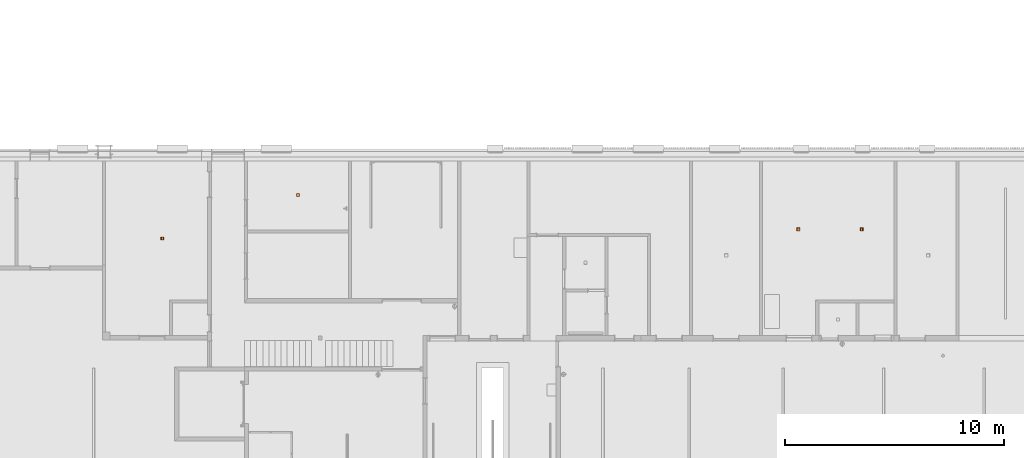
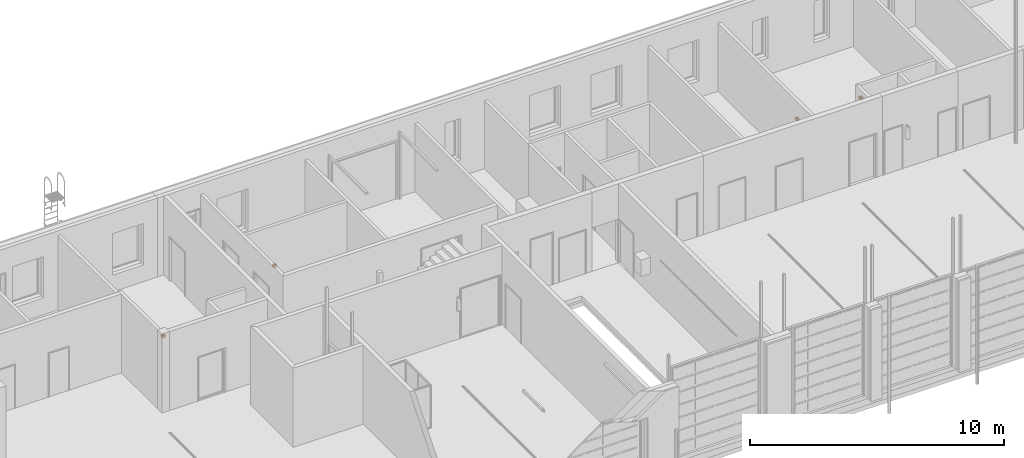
# One storey, part 95 of 112: 4 proxies.
"""IFC2X3 building model written with IfcOpenShell, lengths in millimetres."""

from ifc_helpers import new_model, entity, si_unit, converted_unit, derived_unit, money_unit, direction, frame, origin_with_axes, place, context, subcontext, project, spatial, faceted_brep, source, transform, mapped, type_object, element, save


model = new_model("IFC2X3")

# Units and contexts
model_context = context("Model", 3, precision=0.01, world=origin_with_axes(), true_north=direction((0.0, 1.0)))
body_context = subcontext(model_context, "Body", "Model", "MODEL_VIEW")
ifc_project = project(units=[si_unit("LENGTHUNIT", "METRE", prefix="MILLI"), si_unit("AREAUNIT", "SQUARE_METRE"), si_unit("VOLUMEUNIT", "CUBIC_METRE"), converted_unit("PLANEANGLEUNIT", "DEGREE", entity("IfcPlaneAngleMeasure", 0.0174532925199), si_unit("PLANEANGLEUNIT", "RADIAN"), dimensions=[0, 0, 0, 0, 0, 0, 0]), si_unit("SOLIDANGLEUNIT", "STERADIAN"), money_unit("EUR"), converted_unit("TIMEUNIT", "Year", entity("IfcTimeMeasure", 31556926.0), si_unit("TIMEUNIT", "SECOND"), dimensions=[0, 0, 1, 0, 0, 0, 0]), si_unit("MASSUNIT", "GRAM", prefix="KILO"), si_unit("THERMODYNAMICTEMPERATUREUNIT", "DEGREE_CELSIUS"), si_unit("LUMINOUSINTENSITYUNIT", "LUMEN"), si_unit("ENERGYUNIT", "JOULE", prefix="MEGA"), derived_unit("THERMALCONDUCTANCEUNIT", [(si_unit("POWERUNIT", "WATT"), 1), (si_unit("LENGTHUNIT", "METRE"), -1), (si_unit("THERMODYNAMICTEMPERATUREUNIT", "KELVIN"), -1)]), derived_unit("SPECIFICHEATCAPACITYUNIT", [(si_unit("ENERGYUNIT", "JOULE"), 1), (si_unit("MASSUNIT", "GRAM", prefix="KILO"), -1), (si_unit("THERMODYNAMICTEMPERATUREUNIT", "KELVIN"), -1)]), derived_unit("MASSDENSITYUNIT", [(si_unit("MASSUNIT", "GRAM", prefix="KILO"), 1), (si_unit("VOLUMEUNIT", "CUBIC_METRE"), -1)])], contexts=[model_context])

# Site, building, storey
site_placement = place(None, origin_with_axes())
site = spatial("IfcSite", under=ifc_project, at=site_placement, Name="Politse- ja Piirivalveameti ning Päästeameti ühishoone", CompositionType="ELEMENT")
building_placement = place(site_placement, origin_with_axes())
building = spatial("IfcBuilding", under=site, at=building_placement, Name="Politse- ja Piirivalveameti ning Päästeameti ühishoone", CompositionType="ELEMENT")
storey_placement = place(building_placement, origin_with_axes())
storey = spatial("IfcBuildingStorey", under=building, at=storey_placement, Name="Esimene korrus", CompositionType="ELEMENT", Elevation=0.0)

# Proxies
building_element_proxy_type = type_object("IfcBuildingElementProxyType", Name="Grid 23", PredefinedType="NOTDEFINED")
shared_shape = source(origin_with_axes(), body_context, "Body", "Brep", [
    faceted_brep([(0.0, 0.0, 0.0), (5.0, 5.0, 0.0), (5.0, 5.0, 100.0), (0.0, 0.0, 100.0), (0.0, 150.0, 0.0), (5.0, 145.0, 0.0), (5.0, 119.5, 0.0), (5.0, 117.5, 0.0), (5.0, 90.5, 0.0), (5.0, 88.5, 0.0), (5.0, 61.5, 0.0), (5.0, 59.5, 0.0), (5.0, 32.5, 0.0), (5.0, 30.5, 0.0), (5.0, 30.5, 100.0), (5.0, 32.5, 100.0), (5.0, 59.5, 100.0), (5.0, 61.5, 100.0), (5.0, 88.5, 100.0), (5.0, 90.5, 100.0), (5.0, 117.5, 100.0), (5.0, 119.5, 100.0), (5.0, 145.0, 100.0), (0.0, 150.0, 100.0)], [[[0, 1, 2, 3]], [[0, 4, 5, 6, 7, 8, 9, 10, 11, 12, 13, 1]], [[1, 13, 14, 2]], [[3, 2, 14, 15, 16, 17, 18, 19, 20, 21, 22, 23]], [[4, 0, 3, 23]], [[5, 4, 23, 22]], [[6, 5, 22, 21]], [[7, 6, 21, 20]], [[8, 7, 20, 19]], [[9, 8, 19, 18]], [[10, 9, 18, 17]], [[11, 10, 17, 16]], [[12, 11, 16, 15]], [[13, 12, 15, 14]]]),
    faceted_brep([(150.0, 150.0, 0.0), (145.0, 145.0, 0.0), (145.0, 145.0, 100.0), (150.0, 150.0, 100.0), (150.0, 0.0, 0.0), (145.0, 5.0, 0.0), (145.0, 30.5, 0.0), (145.0, 32.5, 0.0), (145.0, 59.5, 0.0), (145.0, 61.5, 0.0), (145.0, 88.5, 0.0), (145.0, 90.5, 0.0), (145.0, 117.5, 0.0), (145.0, 119.5, 0.0), (145.0, 119.5, 100.0), (145.0, 117.5, 100.0), (145.0, 90.5, 100.0), (145.0, 88.5, 100.0), (145.0, 61.5, 100.0), (145.0, 59.5, 100.0), (145.0, 32.5, 100.0), (145.0, 30.5, 100.0), (145.0, 5.0, 100.0), (150.0, 0.0, 100.0)], [[[0, 1, 2, 3]], [[0, 4, 5, 6, 7, 8, 9, 10, 11, 12, 13, 1]], [[1, 13, 14, 2]], [[3, 2, 14, 15, 16, 17, 18, 19, 20, 21, 22, 23]], [[4, 0, 3, 23]], [[5, 4, 23, 22]], [[6, 5, 22, 21]], [[7, 6, 21, 20]], [[8, 7, 20, 19]], [[9, 8, 19, 18]], [[10, 9, 18, 17]], [[11, 10, 17, 16]], [[12, 11, 16, 15]], [[13, 12, 15, 14]]]),
    faceted_brep([(150.0, 0.0, 0.0), (145.0, 5.0, 0.0), (145.0, 5.0, 100.0), (150.0, 0.0, 100.0), (0.0, 0.0, 0.0), (5.0, 5.0, 0.0), (30.5, 5.0, 0.0), (32.5, 5.0, 0.0), (59.5, 5.0, 0.0), (61.5, 5.0, 0.0), (88.5, 5.0, 0.0), (90.5, 5.0, 0.0), (117.5, 5.0, 0.0), (119.5, 5.0, 0.0), (119.5, 5.0, 100.0), (117.5, 5.0, 100.0), (90.5, 5.0, 100.0), (88.5, 5.0, 100.0), (61.5, 5.0, 100.0), (59.5, 5.0, 100.0), (32.5, 5.0, 100.0), (30.5, 5.0, 100.0), (5.0, 5.0, 100.0), (0.0, 0.0, 100.0)], [[[0, 1, 2, 3]], [[0, 4, 5, 6, 7, 8, 9, 10, 11, 12, 13, 1]], [[1, 13, 14, 2]], [[3, 2, 14, 15, 16, 17, 18, 19, 20, 21, 22, 23]], [[4, 0, 3, 23]], [[5, 4, 23, 22]], [[6, 5, 22, 21]], [[7, 6, 21, 20]], [[8, 7, 20, 19]], [[9, 8, 19, 18]], [[10, 9, 18, 17]], [[11, 10, 17, 16]], [[12, 11, 16, 15]], [[13, 12, 15, 14]]]),
    faceted_brep([(0.0, 150.0, 0.0), (5.0, 145.0, 0.0), (5.0, 145.0, 100.0), (0.0, 150.0, 100.0), (150.0, 150.0, 0.0), (145.0, 145.0, 0.0), (119.5, 145.0, 0.0), (117.5, 145.0, 0.0), (90.5, 145.0, 0.0), (88.5, 145.0, 0.0), (61.5, 145.0, 0.0), (59.5, 145.0, 0.0), (32.5, 145.0, 0.0), (30.5, 145.0, 0.0), (30.5, 145.0, 100.0), (32.5, 145.0, 100.0), (59.5, 145.0, 100.0), (61.5, 145.0, 100.0), (88.5, 145.0, 100.0), (90.5, 145.0, 100.0), (117.5, 145.0, 100.0), (119.5, 145.0, 100.0), (145.0, 145.0, 100.0), (150.0, 150.0, 100.0)], [[[0, 1, 2, 3]], [[0, 4, 5, 6, 7, 8, 9, 10, 11, 12, 13, 1]], [[1, 13, 14, 2]], [[3, 2, 14, 15, 16, 17, 18, 19, 20, 21, 22, 23]], [[4, 0, 3, 23]], [[5, 4, 23, 22]], [[6, 5, 22, 21]], [[7, 6, 21, 20]], [[8, 7, 20, 19]], [[9, 8, 19, 18]], [[10, 9, 18, 17]], [[11, 10, 17, 16]], [[12, 11, 16, 15]], [[13, 12, 15, 14]]]),
    faceted_brep([(30.5, 5.0, 0.0), (32.5, 5.0, 0.0), (32.5, 5.0, 100.0), (30.5, 5.0, 100.0), (30.5, 30.5, 0.0), (30.5, 32.5, 0.0), (30.5, 59.5, 0.0), (30.5, 61.5, 0.0), (30.5, 88.5, 0.0), (30.5, 90.5, 0.0), (30.5, 117.5, 0.0), (30.5, 119.5, 0.0), (30.5, 145.0, 0.0), (32.5, 145.0, 0.0), (32.5, 119.5, 0.0), (32.5, 117.5, 0.0), (32.5, 90.5, 0.0), (32.5, 88.5, 0.0), (32.5, 61.5, 0.0), (32.5, 59.5, 0.0), (32.5, 32.5, 0.0), (32.5, 30.5, 0.0), (32.5, 30.5, 100.0), (32.5, 32.5, 100.0), (32.5, 59.5, 100.0), (32.5, 61.5, 100.0), (32.5, 88.5, 100.0), (32.5, 90.5, 100.0), (32.5, 117.5, 100.0), (32.5, 119.5, 100.0), (32.5, 145.0, 100.0), (30.5, 145.0, 100.0), (30.5, 119.5, 100.0), (30.5, 117.5, 100.0), (30.5, 90.5, 100.0), (30.5, 88.5, 100.0), (30.5, 61.5, 100.0), (30.5, 59.5, 100.0), (30.5, 32.5, 100.0), (30.5, 30.5, 100.0)], [[[0, 1, 2, 3]], [[0, 4, 5, 6, 7, 8, 9, 10, 11, 12, 13, 14, 15, 16, 17, 18, 19, 20, 21, 1]], [[1, 21, 22, 2]], [[3, 2, 22, 23, 24, 25, 26, 27, 28, 29, 30, 31, 32, 33, 34, 35, 36, 37, 38, 39]], [[4, 0, 3, 39]], [[5, 4, 39, 38]], [[6, 5, 38, 37]], [[7, 6, 37, 36]], [[8, 7, 36, 35]], [[9, 8, 35, 34]], [[10, 9, 34, 33]], [[11, 10, 33, 32]], [[12, 11, 32, 31]], [[13, 12, 31, 30]], [[14, 13, 30, 29]], [[15, 14, 29, 28]], [[16, 15, 28, 27]], [[17, 16, 27, 26]], [[18, 17, 26, 25]], [[19, 18, 25, 24]], [[20, 19, 24, 23]], [[21, 20, 23, 22]]]),
    faceted_brep([(59.5, 5.0, 0.0), (61.5, 5.0, 0.0), (61.5, 5.0, 100.0), (59.5, 5.0, 100.0), (59.5, 30.5, 0.0), (59.5, 32.5, 0.0), (59.5, 59.5, 0.0), (59.5, 61.5, 0.0), (59.5, 88.5, 0.0), (59.5, 90.5, 0.0), (59.5, 117.5, 0.0), (59.5, 119.5, 0.0), (59.5, 145.0, 0.0), (61.5, 145.0, 0.0), (61.5, 119.5, 0.0), (61.5, 117.5, 0.0), (61.5, 90.5, 0.0), (61.5, 88.5, 0.0), (61.5, 61.5, 0.0), (61.5, 59.5, 0.0), (61.5, 32.5, 0.0), (61.5, 30.5, 0.0), (61.5, 30.5, 100.0), (61.5, 32.5, 100.0), (61.5, 59.5, 100.0), (61.5, 61.5, 100.0), (61.5, 88.5, 100.0), (61.5, 90.5, 100.0), (61.5, 117.5, 100.0), (61.5, 119.5, 100.0), (61.5, 145.0, 100.0), (59.5, 145.0, 100.0), (59.5, 119.5, 100.0), (59.5, 117.5, 100.0), (59.5, 90.5, 100.0), (59.5, 88.5, 100.0), (59.5, 61.5, 100.0), (59.5, 59.5, 100.0), (59.5, 32.5, 100.0), (59.5, 30.5, 100.0)], [[[0, 1, 2, 3]], [[0, 4, 5, 6, 7, 8, 9, 10, 11, 12, 13, 14, 15, 16, 17, 18, 19, 20, 21, 1]], [[1, 21, 22, 2]], [[3, 2, 22, 23, 24, 25, 26, 27, 28, 29, 30, 31, 32, 33, 34, 35, 36, 37, 38, 39]], [[4, 0, 3, 39]], [[5, 4, 39, 38]], [[6, 5, 38, 37]], [[7, 6, 37, 36]], [[8, 7, 36, 35]], [[9, 8, 35, 34]], [[10, 9, 34, 33]], [[11, 10, 33, 32]], [[12, 11, 32, 31]], [[13, 12, 31, 30]], [[14, 13, 30, 29]], [[15, 14, 29, 28]], [[16, 15, 28, 27]], [[17, 16, 27, 26]], [[18, 17, 26, 25]], [[19, 18, 25, 24]], [[20, 19, 24, 23]], [[21, 20, 23, 22]]]),
    faceted_brep([(88.5, 5.0, 0.0), (90.5, 5.0, 0.0), (90.5, 5.0, 100.0), (88.5, 5.0, 100.0), (88.5, 30.5, 0.0), (88.5, 32.5, 0.0), (88.5, 59.5, 0.0), (88.5, 61.5, 0.0), (88.5, 88.5, 0.0), (88.5, 90.5, 0.0), (88.5, 117.5, 0.0), (88.5, 119.5, 0.0), (88.5, 145.0, 0.0), (90.5, 145.0, 0.0), (90.5, 119.5, 0.0), (90.5, 117.5, 0.0), (90.5, 90.5, 0.0), (90.5, 88.5, 0.0), (90.5, 61.5, 0.0), (90.5, 59.5, 0.0), (90.5, 32.5, 0.0), (90.5, 30.5, 0.0), (90.5, 30.5, 100.0), (90.5, 32.5, 100.0), (90.5, 59.5, 100.0), (90.5, 61.5, 100.0), (90.5, 88.5, 100.0), (90.5, 90.5, 100.0), (90.5, 117.5, 100.0), (90.5, 119.5, 100.0), (90.5, 145.0, 100.0), (88.5, 145.0, 100.0), (88.5, 119.5, 100.0), (88.5, 117.5, 100.0), (88.5, 90.5, 100.0), (88.5, 88.5, 100.0), (88.5, 61.5, 100.0), (88.5, 59.5, 100.0), (88.5, 32.5, 100.0), (88.5, 30.5, 100.0)], [[[0, 1, 2, 3]], [[0, 4, 5, 6, 7, 8, 9, 10, 11, 12, 13, 14, 15, 16, 17, 18, 19, 20, 21, 1]], [[1, 21, 22, 2]], [[3, 2, 22, 23, 24, 25, 26, 27, 28, 29, 30, 31, 32, 33, 34, 35, 36, 37, 38, 39]], [[4, 0, 3, 39]], [[5, 4, 39, 38]], [[6, 5, 38, 37]], [[7, 6, 37, 36]], [[8, 7, 36, 35]], [[9, 8, 35, 34]], [[10, 9, 34, 33]], [[11, 10, 33, 32]], [[12, 11, 32, 31]], [[13, 12, 31, 30]], [[14, 13, 30, 29]], [[15, 14, 29, 28]], [[16, 15, 28, 27]], [[17, 16, 27, 26]], [[18, 17, 26, 25]], [[19, 18, 25, 24]], [[20, 19, 24, 23]], [[21, 20, 23, 22]]]),
    faceted_brep([(117.5, 5.0, 0.0), (119.5, 5.0, 0.0), (119.5, 5.0, 100.0), (117.5, 5.0, 100.0), (117.5, 30.5, 0.0), (117.5, 32.5, 0.0), (117.5, 59.5, 0.0), (117.5, 61.5, 0.0), (117.5, 88.5, 0.0), (117.5, 90.5, 0.0), (117.5, 117.5, 0.0), (117.5, 119.5, 0.0), (117.5, 145.0, 0.0), (119.5, 145.0, 0.0), (119.5, 119.5, 0.0), (119.5, 117.5, 0.0), (119.5, 90.5, 0.0), (119.5, 88.5, 0.0), (119.5, 61.5, 0.0), (119.5, 59.5, 0.0), (119.5, 32.5, 0.0), (119.5, 30.5, 0.0), (119.5, 30.5, 100.0), (119.5, 32.5, 100.0), (119.5, 59.5, 100.0), (119.5, 61.5, 100.0), (119.5, 88.5, 100.0), (119.5, 90.5, 100.0), (119.5, 117.5, 100.0), (119.5, 119.5, 100.0), (119.5, 145.0, 100.0), (117.5, 145.0, 100.0), (117.5, 119.5, 100.0), (117.5, 117.5, 100.0), (117.5, 90.5, 100.0), (117.5, 88.5, 100.0), (117.5, 61.5, 100.0), (117.5, 59.5, 100.0), (117.5, 32.5, 100.0), (117.5, 30.5, 100.0)], [[[0, 1, 2, 3]], [[0, 4, 5, 6, 7, 8, 9, 10, 11, 12, 13, 14, 15, 16, 17, 18, 19, 20, 21, 1]], [[1, 21, 22, 2]], [[3, 2, 22, 23, 24, 25, 26, 27, 28, 29, 30, 31, 32, 33, 34, 35, 36, 37, 38, 39]], [[4, 0, 3, 39]], [[5, 4, 39, 38]], [[6, 5, 38, 37]], [[7, 6, 37, 36]], [[8, 7, 36, 35]], [[9, 8, 35, 34]], [[10, 9, 34, 33]], [[11, 10, 33, 32]], [[12, 11, 32, 31]], [[13, 12, 31, 30]], [[14, 13, 30, 29]], [[15, 14, 29, 28]], [[16, 15, 28, 27]], [[17, 16, 27, 26]], [[18, 17, 26, 25]], [[19, 18, 25, 24]], [[20, 19, 24, 23]], [[21, 20, 23, 22]]]),
    faceted_brep([(30.5, 30.5, 0.0), (30.5, 32.5, 0.0), (30.5, 32.5, 100.0), (30.5, 30.5, 100.0), (5.0, 30.5, 0.0), (5.0, 32.5, 0.0), (5.0, 32.5, 100.0), (5.0, 30.5, 100.0)], [[[0, 1, 2, 3]], [[0, 4, 5, 1]], [[1, 5, 6, 2]], [[3, 2, 6, 7]], [[4, 0, 3, 7]], [[5, 4, 7, 6]]]),
    faceted_brep([(30.5, 59.5, 0.0), (30.5, 61.5, 0.0), (30.5, 61.5, 100.0), (30.5, 59.5, 100.0), (5.0, 59.5, 0.0), (5.0, 61.5, 0.0), (5.0, 61.5, 100.0), (5.0, 59.5, 100.0)], [[[0, 1, 2, 3]], [[0, 4, 5, 1]], [[1, 5, 6, 2]], [[3, 2, 6, 7]], [[4, 0, 3, 7]], [[5, 4, 7, 6]]]),
    faceted_brep([(30.5, 88.5, 0.0), (30.5, 90.5, 0.0), (30.5, 90.5, 100.0), (30.5, 88.5, 100.0), (5.0, 88.5, 0.0), (5.0, 90.5, 0.0), (5.0, 90.5, 100.0), (5.0, 88.5, 100.0)], [[[0, 1, 2, 3]], [[0, 4, 5, 1]], [[1, 5, 6, 2]], [[3, 2, 6, 7]], [[4, 0, 3, 7]], [[5, 4, 7, 6]]]),
    faceted_brep([(30.5, 117.5, 0.0), (30.5, 119.5, 0.0), (30.5, 119.5, 100.0), (30.5, 117.5, 100.0), (5.0, 117.5, 0.0), (5.0, 119.5, 0.0), (5.0, 119.5, 100.0), (5.0, 117.5, 100.0)], [[[0, 1, 2, 3]], [[0, 4, 5, 1]], [[1, 5, 6, 2]], [[3, 2, 6, 7]], [[4, 0, 3, 7]], [[5, 4, 7, 6]]]),
    faceted_brep([(59.5, 30.5, 0.0), (59.5, 32.5, 0.0), (59.5, 32.5, 100.0), (59.5, 30.5, 100.0), (32.5, 30.5, 0.0), (32.5, 32.5, 0.0), (32.5, 32.5, 100.0), (32.5, 30.5, 100.0)], [[[0, 1, 2, 3]], [[0, 4, 5, 1]], [[1, 5, 6, 2]], [[3, 2, 6, 7]], [[4, 0, 3, 7]], [[5, 4, 7, 6]]]),
    faceted_brep([(59.5, 59.5, 0.0), (59.5, 61.5, 0.0), (59.5, 61.5, 100.0), (59.5, 59.5, 100.0), (32.5, 59.5, 0.0), (32.5, 61.5, 0.0), (32.5, 61.5, 100.0), (32.5, 59.5, 100.0)], [[[0, 1, 2, 3]], [[0, 4, 5, 1]], [[1, 5, 6, 2]], [[3, 2, 6, 7]], [[4, 0, 3, 7]], [[5, 4, 7, 6]]]),
    faceted_brep([(59.5, 88.5, 0.0), (59.5, 90.5, 0.0), (59.5, 90.5, 100.0), (59.5, 88.5, 100.0), (32.5, 88.5, 0.0), (32.5, 90.5, 0.0), (32.5, 90.5, 100.0), (32.5, 88.5, 100.0)], [[[0, 1, 2, 3]], [[0, 4, 5, 1]], [[1, 5, 6, 2]], [[3, 2, 6, 7]], [[4, 0, 3, 7]], [[5, 4, 7, 6]]]),
    faceted_brep([(59.5, 117.5, 0.0), (59.5, 119.5, 0.0), (59.5, 119.5, 100.0), (59.5, 117.5, 100.0), (32.5, 117.5, 0.0), (32.5, 119.5, 0.0), (32.5, 119.5, 100.0), (32.5, 117.5, 100.0)], [[[0, 1, 2, 3]], [[0, 4, 5, 1]], [[1, 5, 6, 2]], [[3, 2, 6, 7]], [[4, 0, 3, 7]], [[5, 4, 7, 6]]]),
    faceted_brep([(88.5, 30.5, 0.0), (88.5, 32.5, 0.0), (88.5, 32.5, 100.0), (88.5, 30.5, 100.0), (61.5, 30.5, 0.0), (61.5, 32.5, 0.0), (61.5, 32.5, 100.0), (61.5, 30.5, 100.0)], [[[0, 1, 2, 3]], [[0, 4, 5, 1]], [[1, 5, 6, 2]], [[3, 2, 6, 7]], [[4, 0, 3, 7]], [[5, 4, 7, 6]]]),
    faceted_brep([(88.5, 59.5, 0.0), (88.5, 61.5, 0.0), (88.5, 61.5, 100.0), (88.5, 59.5, 100.0), (61.5, 59.5, 0.0), (61.5, 61.5, 0.0), (61.5, 61.5, 100.0), (61.5, 59.5, 100.0)], [[[0, 1, 2, 3]], [[0, 4, 5, 1]], [[1, 5, 6, 2]], [[3, 2, 6, 7]], [[4, 0, 3, 7]], [[5, 4, 7, 6]]]),
    faceted_brep([(88.5, 88.5, 0.0), (88.5, 90.5, 0.0), (88.5, 90.5, 100.0), (88.5, 88.5, 100.0), (61.5, 88.5, 0.0), (61.5, 90.5, 0.0), (61.5, 90.5, 100.0), (61.5, 88.5, 100.0)], [[[0, 1, 2, 3]], [[0, 4, 5, 1]], [[1, 5, 6, 2]], [[3, 2, 6, 7]], [[4, 0, 3, 7]], [[5, 4, 7, 6]]]),
    faceted_brep([(88.5, 117.5, 0.0), (88.5, 119.5, 0.0), (88.5, 119.5, 100.0), (88.5, 117.5, 100.0), (61.5, 117.5, 0.0), (61.5, 119.5, 0.0), (61.5, 119.5, 100.0), (61.5, 117.5, 100.0)], [[[0, 1, 2, 3]], [[0, 4, 5, 1]], [[1, 5, 6, 2]], [[3, 2, 6, 7]], [[4, 0, 3, 7]], [[5, 4, 7, 6]]]),
    faceted_brep([(117.5, 30.5, 0.0), (117.5, 32.5, 0.0), (117.5, 32.5, 100.0), (117.5, 30.5, 100.0), (90.5, 30.5, 0.0), (90.5, 32.5, 0.0), (90.5, 32.5, 100.0), (90.5, 30.5, 100.0)], [[[0, 1, 2, 3]], [[0, 4, 5, 1]], [[1, 5, 6, 2]], [[3, 2, 6, 7]], [[4, 0, 3, 7]], [[5, 4, 7, 6]]]),
    faceted_brep([(117.5, 59.5, 0.0), (117.5, 61.5, 0.0), (117.5, 61.5, 100.0), (117.5, 59.5, 100.0), (90.5, 59.5, 0.0), (90.5, 61.5, 0.0), (90.5, 61.5, 100.0), (90.5, 59.5, 100.0)], [[[0, 1, 2, 3]], [[0, 4, 5, 1]], [[1, 5, 6, 2]], [[3, 2, 6, 7]], [[4, 0, 3, 7]], [[5, 4, 7, 6]]]),
    faceted_brep([(117.5, 88.5, 0.0), (117.5, 90.5, 0.0), (117.5, 90.5, 100.0), (117.5, 88.5, 100.0), (90.5, 88.5, 0.0), (90.5, 90.5, 0.0), (90.5, 90.5, 100.0), (90.5, 88.5, 100.0)], [[[0, 1, 2, 3]], [[0, 4, 5, 1]], [[1, 5, 6, 2]], [[3, 2, 6, 7]], [[4, 0, 3, 7]], [[5, 4, 7, 6]]]),
    faceted_brep([(117.5, 117.5, 0.0), (117.5, 119.5, 0.0), (117.5, 119.5, 100.0), (117.5, 117.5, 100.0), (90.5, 117.5, 0.0), (90.5, 119.5, 0.0), (90.5, 119.5, 100.0), (90.5, 117.5, 100.0)], [[[0, 1, 2, 3]], [[0, 4, 5, 1]], [[1, 5, 6, 2]], [[3, 2, 6, 7]], [[4, 0, 3, 7]], [[5, 4, 7, 6]]]),
    faceted_brep([(145.0, 30.5, 0.0), (145.0, 32.5, 0.0), (145.0, 32.5, 100.0), (145.0, 30.5, 100.0), (119.5, 30.5, 0.0), (119.5, 32.5, 0.0), (119.5, 32.5, 100.0), (119.5, 30.5, 100.0)], [[[0, 1, 2, 3]], [[0, 4, 5, 1]], [[1, 5, 6, 2]], [[3, 2, 6, 7]], [[4, 0, 3, 7]], [[5, 4, 7, 6]]]),
    faceted_brep([(145.0, 59.5, 0.0), (145.0, 61.5, 0.0), (145.0, 61.5, 100.0), (145.0, 59.5, 100.0), (119.5, 59.5, 0.0), (119.5, 61.5, 0.0), (119.5, 61.5, 100.0), (119.5, 59.5, 100.0)], [[[0, 1, 2, 3]], [[0, 4, 5, 1]], [[1, 5, 6, 2]], [[3, 2, 6, 7]], [[4, 0, 3, 7]], [[5, 4, 7, 6]]]),
    faceted_brep([(145.0, 88.5, 0.0), (145.0, 90.5, 0.0), (145.0, 90.5, 100.0), (145.0, 88.5, 100.0), (119.5, 88.5, 0.0), (119.5, 90.5, 0.0), (119.5, 90.5, 100.0), (119.5, 88.5, 100.0)], [[[0, 1, 2, 3]], [[0, 4, 5, 1]], [[1, 5, 6, 2]], [[3, 2, 6, 7]], [[4, 0, 3, 7]], [[5, 4, 7, 6]]]),
    faceted_brep([(145.0, 117.5, 0.0), (145.0, 119.5, 0.0), (145.0, 119.5, 100.0), (145.0, 117.5, 100.0), (119.5, 117.5, 0.0), (119.5, 119.5, 0.0), (119.5, 119.5, 100.0), (119.5, 117.5, 100.0)], [[[0, 1, 2, 3]], [[0, 4, 5, 1]], [[1, 5, 6, 2]], [[3, 2, 6, 7]], [[4, 0, 3, 7]], [[5, 4, 7, 6]]]),
    faceted_brep([(5.0, 5.0, 43.65), (30.5, 5.0, 43.65), (30.5, 5.0, 56.35), (5.0, 5.0, 56.35), (5.0, 30.5, 43.65), (30.5, 30.5, 43.65), (30.5, 30.5, 56.35), (5.0, 30.5, 56.35)], [[[0, 1, 2, 3]], [[0, 4, 5, 1]], [[1, 5, 6, 2]], [[3, 2, 6, 7]], [[4, 0, 3, 7]], [[5, 4, 7, 6]]]),
    faceted_brep([(5.0, 32.5, 43.65), (30.5, 32.5, 43.65), (30.5, 32.5, 56.35), (5.0, 32.5, 56.35), (5.0, 59.5, 43.65), (30.5, 59.5, 43.65), (30.5, 59.5, 56.35), (5.0, 59.5, 56.35)], [[[0, 1, 2, 3]], [[0, 4, 5, 1]], [[1, 5, 6, 2]], [[3, 2, 6, 7]], [[4, 0, 3, 7]], [[5, 4, 7, 6]]]),
    faceted_brep([(5.0, 61.5, 43.65), (30.5, 61.5, 43.65), (30.5, 61.5, 56.35), (5.0, 61.5, 56.35), (5.0, 88.5, 43.65), (30.5, 88.5, 43.65), (30.5, 88.5, 56.35), (5.0, 88.5, 56.35)], [[[0, 1, 2, 3]], [[0, 4, 5, 1]], [[1, 5, 6, 2]], [[3, 2, 6, 7]], [[4, 0, 3, 7]], [[5, 4, 7, 6]]]),
    faceted_brep([(5.0, 90.5, 43.65), (30.5, 90.5, 43.65), (30.5, 90.5, 56.35), (5.0, 90.5, 56.35), (5.0, 117.5, 43.65), (30.5, 117.5, 43.65), (30.5, 117.5, 56.35), (5.0, 117.5, 56.35)], [[[0, 1, 2, 3]], [[0, 4, 5, 1]], [[1, 5, 6, 2]], [[3, 2, 6, 7]], [[4, 0, 3, 7]], [[5, 4, 7, 6]]]),
    faceted_brep([(5.0, 119.5, 43.65), (30.5, 119.5, 43.65), (30.5, 119.5, 56.35), (5.0, 119.5, 56.35), (5.0, 145.0, 43.65), (30.5, 145.0, 43.65), (30.5, 145.0, 56.35), (5.0, 145.0, 56.35)], [[[0, 1, 2, 3]], [[0, 4, 5, 1]], [[1, 5, 6, 2]], [[3, 2, 6, 7]], [[4, 0, 3, 7]], [[5, 4, 7, 6]]]),
    faceted_brep([(32.5, 5.0, 43.65), (59.5, 5.0, 43.65), (59.5, 5.0, 56.35), (32.5, 5.0, 56.35), (32.5, 30.5, 43.65), (59.5, 30.5, 43.65), (59.5, 30.5, 56.35), (32.5, 30.5, 56.35)], [[[0, 1, 2, 3]], [[0, 4, 5, 1]], [[1, 5, 6, 2]], [[3, 2, 6, 7]], [[4, 0, 3, 7]], [[5, 4, 7, 6]]]),
    faceted_brep([(32.5, 32.5, 43.65), (59.5, 32.5, 43.65), (59.5, 32.5, 56.35), (32.5, 32.5, 56.35), (32.5, 59.5, 43.65), (59.5, 59.5, 43.65), (59.5, 59.5, 56.35), (32.5, 59.5, 56.35)], [[[0, 1, 2, 3]], [[0, 4, 5, 1]], [[1, 5, 6, 2]], [[3, 2, 6, 7]], [[4, 0, 3, 7]], [[5, 4, 7, 6]]]),
    faceted_brep([(32.5, 61.5, 43.65), (59.5, 61.5, 43.65), (59.5, 61.5, 56.35), (32.5, 61.5, 56.35), (32.5, 88.5, 43.65), (59.5, 88.5, 43.65), (59.5, 88.5, 56.35), (32.5, 88.5, 56.35)], [[[0, 1, 2, 3]], [[0, 4, 5, 1]], [[1, 5, 6, 2]], [[3, 2, 6, 7]], [[4, 0, 3, 7]], [[5, 4, 7, 6]]]),
    faceted_brep([(32.5, 90.5, 43.65), (59.5, 90.5, 43.65), (59.5, 90.5, 56.35), (32.5, 90.5, 56.35), (32.5, 117.5, 43.65), (59.5, 117.5, 43.65), (59.5, 117.5, 56.35), (32.5, 117.5, 56.35)], [[[0, 1, 2, 3]], [[0, 4, 5, 1]], [[1, 5, 6, 2]], [[3, 2, 6, 7]], [[4, 0, 3, 7]], [[5, 4, 7, 6]]]),
    faceted_brep([(32.5, 119.5, 43.65), (59.5, 119.5, 43.65), (59.5, 119.5, 56.35), (32.5, 119.5, 56.35), (32.5, 145.0, 43.65), (59.5, 145.0, 43.65), (59.5, 145.0, 56.35), (32.5, 145.0, 56.35)], [[[0, 1, 2, 3]], [[0, 4, 5, 1]], [[1, 5, 6, 2]], [[3, 2, 6, 7]], [[4, 0, 3, 7]], [[5, 4, 7, 6]]]),
    faceted_brep([(61.5, 5.0, 43.65), (88.5, 5.0, 43.65), (88.5, 5.0, 56.35), (61.5, 5.0, 56.35), (61.5, 30.5, 43.65), (88.5, 30.5, 43.65), (88.5, 30.5, 56.35), (61.5, 30.5, 56.35)], [[[0, 1, 2, 3]], [[0, 4, 5, 1]], [[1, 5, 6, 2]], [[3, 2, 6, 7]], [[4, 0, 3, 7]], [[5, 4, 7, 6]]]),
    faceted_brep([(61.5, 32.5, 43.65), (88.5, 32.5, 43.65), (88.5, 32.5, 56.35), (61.5, 32.5, 56.35), (61.5, 59.5, 43.65), (88.5, 59.5, 43.65), (88.5, 59.5, 56.35), (61.5, 59.5, 56.35)], [[[0, 1, 2, 3]], [[0, 4, 5, 1]], [[1, 5, 6, 2]], [[3, 2, 6, 7]], [[4, 0, 3, 7]], [[5, 4, 7, 6]]]),
    faceted_brep([(61.5, 61.5, 43.65), (88.5, 61.5, 43.65), (88.5, 61.5, 56.35), (61.5, 61.5, 56.35), (61.5, 88.5, 43.65), (88.5, 88.5, 43.65), (88.5, 88.5, 56.35), (61.5, 88.5, 56.35)], [[[0, 1, 2, 3]], [[0, 4, 5, 1]], [[1, 5, 6, 2]], [[3, 2, 6, 7]], [[4, 0, 3, 7]], [[5, 4, 7, 6]]]),
    faceted_brep([(61.5, 90.5, 43.65), (88.5, 90.5, 43.65), (88.5, 90.5, 56.35), (61.5, 90.5, 56.35), (61.5, 117.5, 43.65), (88.5, 117.5, 43.65), (88.5, 117.5, 56.35), (61.5, 117.5, 56.35)], [[[0, 1, 2, 3]], [[0, 4, 5, 1]], [[1, 5, 6, 2]], [[3, 2, 6, 7]], [[4, 0, 3, 7]], [[5, 4, 7, 6]]]),
    faceted_brep([(61.5, 119.5, 43.65), (88.5, 119.5, 43.65), (88.5, 119.5, 56.35), (61.5, 119.5, 56.35), (61.5, 145.0, 43.65), (88.5, 145.0, 43.65), (88.5, 145.0, 56.35), (61.5, 145.0, 56.35)], [[[0, 1, 2, 3]], [[0, 4, 5, 1]], [[1, 5, 6, 2]], [[3, 2, 6, 7]], [[4, 0, 3, 7]], [[5, 4, 7, 6]]]),
    faceted_brep([(90.5, 5.0, 43.65), (117.5, 5.0, 43.65), (117.5, 5.0, 56.35), (90.5, 5.0, 56.35), (90.5, 30.5, 43.65), (117.5, 30.5, 43.65), (117.5, 30.5, 56.35), (90.5, 30.5, 56.35)], [[[0, 1, 2, 3]], [[0, 4, 5, 1]], [[1, 5, 6, 2]], [[3, 2, 6, 7]], [[4, 0, 3, 7]], [[5, 4, 7, 6]]]),
    faceted_brep([(90.5, 32.5, 43.65), (117.5, 32.5, 43.65), (117.5, 32.5, 56.35), (90.5, 32.5, 56.35), (90.5, 59.5, 43.65), (117.5, 59.5, 43.65), (117.5, 59.5, 56.35), (90.5, 59.5, 56.35)], [[[0, 1, 2, 3]], [[0, 4, 5, 1]], [[1, 5, 6, 2]], [[3, 2, 6, 7]], [[4, 0, 3, 7]], [[5, 4, 7, 6]]]),
    faceted_brep([(90.5, 61.5, 43.65), (117.5, 61.5, 43.65), (117.5, 61.5, 56.35), (90.5, 61.5, 56.35), (90.5, 88.5, 43.65), (117.5, 88.5, 43.65), (117.5, 88.5, 56.35), (90.5, 88.5, 56.35)], [[[0, 1, 2, 3]], [[0, 4, 5, 1]], [[1, 5, 6, 2]], [[3, 2, 6, 7]], [[4, 0, 3, 7]], [[5, 4, 7, 6]]]),
    faceted_brep([(90.5, 90.5, 43.65), (117.5, 90.5, 43.65), (117.5, 90.5, 56.35), (90.5, 90.5, 56.35), (90.5, 117.5, 43.65), (117.5, 117.5, 43.65), (117.5, 117.5, 56.35), (90.5, 117.5, 56.35)], [[[0, 1, 2, 3]], [[0, 4, 5, 1]], [[1, 5, 6, 2]], [[3, 2, 6, 7]], [[4, 0, 3, 7]], [[5, 4, 7, 6]]]),
    faceted_brep([(90.5, 119.5, 43.65), (117.5, 119.5, 43.65), (117.5, 119.5, 56.35), (90.5, 119.5, 56.35), (90.5, 145.0, 43.65), (117.5, 145.0, 43.65), (117.5, 145.0, 56.35), (90.5, 145.0, 56.35)], [[[0, 1, 2, 3]], [[0, 4, 5, 1]], [[1, 5, 6, 2]], [[3, 2, 6, 7]], [[4, 0, 3, 7]], [[5, 4, 7, 6]]]),
    faceted_brep([(119.5, 5.0, 43.65), (145.0, 5.0, 43.65), (145.0, 5.0, 56.35), (119.5, 5.0, 56.35), (119.5, 30.5, 43.65), (145.0, 30.5, 43.65), (145.0, 30.5, 56.35), (119.5, 30.5, 56.35)], [[[0, 1, 2, 3]], [[0, 4, 5, 1]], [[1, 5, 6, 2]], [[3, 2, 6, 7]], [[4, 0, 3, 7]], [[5, 4, 7, 6]]]),
    faceted_brep([(119.5, 32.5, 43.65), (145.0, 32.5, 43.65), (145.0, 32.5, 56.35), (119.5, 32.5, 56.35), (119.5, 59.5, 43.65), (145.0, 59.5, 43.65), (145.0, 59.5, 56.35), (119.5, 59.5, 56.35)], [[[0, 1, 2, 3]], [[0, 4, 5, 1]], [[1, 5, 6, 2]], [[3, 2, 6, 7]], [[4, 0, 3, 7]], [[5, 4, 7, 6]]]),
    faceted_brep([(119.5, 61.5, 43.65), (145.0, 61.5, 43.65), (145.0, 61.5, 56.35), (119.5, 61.5, 56.35), (119.5, 88.5, 43.65), (145.0, 88.5, 43.65), (145.0, 88.5, 56.35), (119.5, 88.5, 56.35)], [[[0, 1, 2, 3]], [[0, 4, 5, 1]], [[1, 5, 6, 2]], [[3, 2, 6, 7]], [[4, 0, 3, 7]], [[5, 4, 7, 6]]]),
    faceted_brep([(119.5, 90.5, 43.65), (145.0, 90.5, 43.65), (145.0, 90.5, 56.35), (119.5, 90.5, 56.35), (119.5, 117.5, 43.65), (145.0, 117.5, 43.65), (145.0, 117.5, 56.35), (119.5, 117.5, 56.35)], [[[0, 1, 2, 3]], [[0, 4, 5, 1]], [[1, 5, 6, 2]], [[3, 2, 6, 7]], [[4, 0, 3, 7]], [[5, 4, 7, 6]]]),
    faceted_brep([(119.5, 119.5, 43.65), (145.0, 119.5, 43.65), (145.0, 119.5, 56.35), (119.5, 119.5, 56.35), (119.5, 145.0, 43.65), (145.0, 145.0, 43.65), (145.0, 145.0, 56.35), (119.5, 145.0, 56.35)], [[[0, 1, 2, 3]], [[0, 4, 5, 1]], [[1, 5, 6, 2]], [[3, 2, 6, 7]], [[4, 0, 3, 7]], [[5, 4, 7, 6]]]),
])
for number, where, z_axis, x_axis, name in (
    (1, (14564.3160549, 17368.6462309, -100.0), (0.0, 0.0, 1.0), (1.0, 0.0, 0.0), "Trapp (104)"),
    (2, (20782.3782044, 19354.4690277, -100.0), (0.0, 0.0, 1.0), (1.0, 0.0, 0.0), "Trapp (107)"),
    (3, (43672.3664614, 17785.9859663, -100.0), (0.0, 0.0, 1.0), (1.0, 0.0, 0.0), "Trapp (124)"),
    (4, (46574.3589475, 17788.4859663, -100.0), (0.0, 0.0, 1.0), (1.0, 0.0, 0.0), "Trapp (124)"),
):
    element("IfcBuildingElementProxy", number, at=place(storey_placement, frame(where, z_axis=z_axis, x_axis=x_axis)), inside=storey, type_object=building_element_proxy_type, Name=name, context=body_context, shape_type="MappedRepresentation", body=[
        mapped(shared_shape, transform((0.0, 0.0, 0.0))),
    ])

save(model, "model.ifc")
